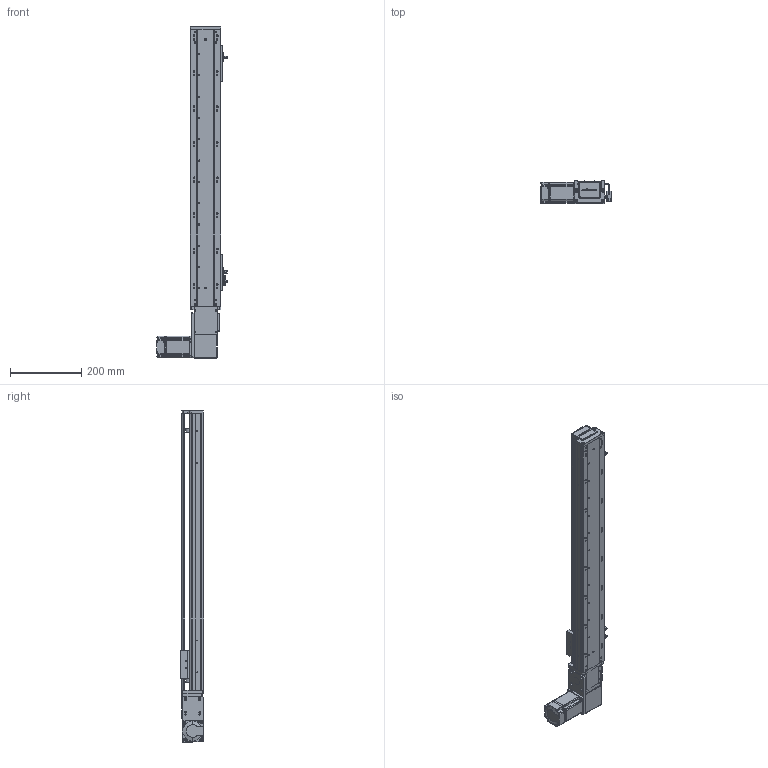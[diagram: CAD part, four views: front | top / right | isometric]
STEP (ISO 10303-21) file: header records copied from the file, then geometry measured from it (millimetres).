
FILE_DESCRIPTION (( 'STEP AP203' ), '1' );
FILE_NAME ('RY80-T-300-LK.SLDASM_600.step', '2021-03-01T01:58:20', ( '盈信电脑' ), ( '东莞市道滘镇水果街19号' ), 'SwSTEP 2.0', 'SolidWorks 2012', '' );
FILE_SCHEMA (( 'CONFIG_CONTROL_DESIGN' ));
Products named in the file (19): RY80-T-M4蹟翐; RY80-T-300-LK.SLDASM_600; RY80-T萇儂假蚾啣; 滅袉蝶18-10; RY80-T肮祭謫俋欶; 1; 侂狟200W萇儂; RY80-T肮祭湍揤輸2; RY80-T翋肮祭謫裔啣; RY80-T粣創揤踡輸; RY80-T-翋肮祭謫釱; 覜茼ん672; RY80-T肮祭湍揤輸1; RY80俋离覜茼え; 672嫖萇羲壽假蚾釱; RY80-T-300-LK倰第奻裔啣_600; RY80-T肮祭謫臏賑輸; RY80-T綴裔啣; RY80-T-300-LK倰第菁釱_600
Assembly tree (24 placements, depth 3):
  RY80-T-300-LK.SLDASM_600
    RY80-T-300-LK倰第菁釱_600
    RY80-T肮祭謫臏賑輸
    RY80-T-300-LK倰第奻裔啣_600
    RY80-T綴裔啣
    672嫖萇羲壽假蚾釱  x2
    覜茼ん672  x3
    RY80俋离覜茼え
    RY80-T-翋肮祭謫釱
    RY80-T肮祭湍揤輸1
    RY80-T肮祭湍揤輸2
    RY80-T粣創揤踡輸
    RY80-T翋肮祭謫裔啣  x2
    滅袉蝶18-10  x2
    侂狟200W萇儂
      1
    RY80-T肮祭謫俋欶
    RY80-T萇儂假蚾啣
    RY80-T-M4蹟翐  x2
Bounding box: 198.7 x 65 x 935 mm (x, y, z)
Volume: 1657978 mm3; surface area: 676757 mm2
Topology: 23 solids, 23 shells, 2483 faces, 6859 edges, 4457 vertices
Faces by surface type: plane 1327, cylinder 951, cone 149, bspline 56
Entity records: 78329 total; most frequent: CARTESIAN_POINT 19255, ORIENTED_EDGE 12162, DIRECTION 11368, EDGE_CURVE 6081, VERTEX_POINT 3998, AXIS2_PLACEMENT_3D 3823, LINE 3722, VECTOR 3722
